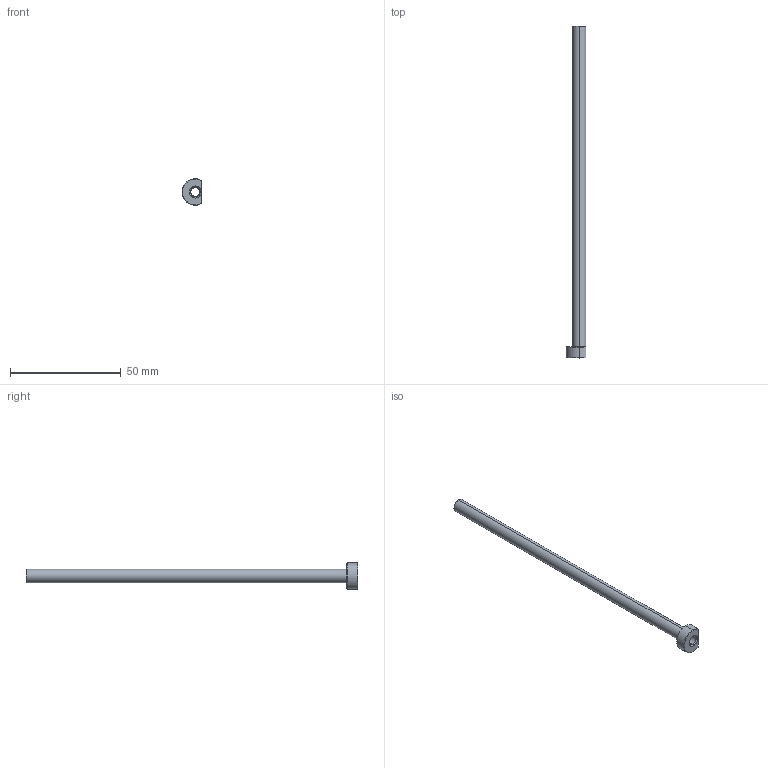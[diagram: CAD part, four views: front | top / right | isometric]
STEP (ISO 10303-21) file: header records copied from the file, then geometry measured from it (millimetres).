
FILE_DESCRIPTION (( 'STEP AP203' ), '1' );
FILE_NAME ('ESD04L150-K.step', '2022-02-05T15:04:41', ( 'Microsoft Corporation' ), ( 'MS' ), 'SwSTEP 2.0', 'SolidWorks 2019', '' );
FILE_SCHEMA (( 'CONFIG_CONTROL_DESIGN' ));
Length unit declared in the file: millimetre
Products named in the file (1): ESD04L150-K
Bounding box: 9 x 150 x 12 mm (x, y, z)
Volume: 2337.1 mm3; surface area: 5092.8 mm2
Topology: 1 solids, 1 shells, 26 faces, 59 edges, 35 vertices
Faces by surface type: cone 10, cylinder 9, plane 4, torus 3
Entity records: 826 total; most frequent: CARTESIAN_POINT 147, DIRECTION 139, ORIENTED_EDGE 118, EDGE_CURVE 59, AXIS2_PLACEMENT_3D 59, VERTEX_POINT 35, CIRCLE 32, EDGE_LOOP 28
